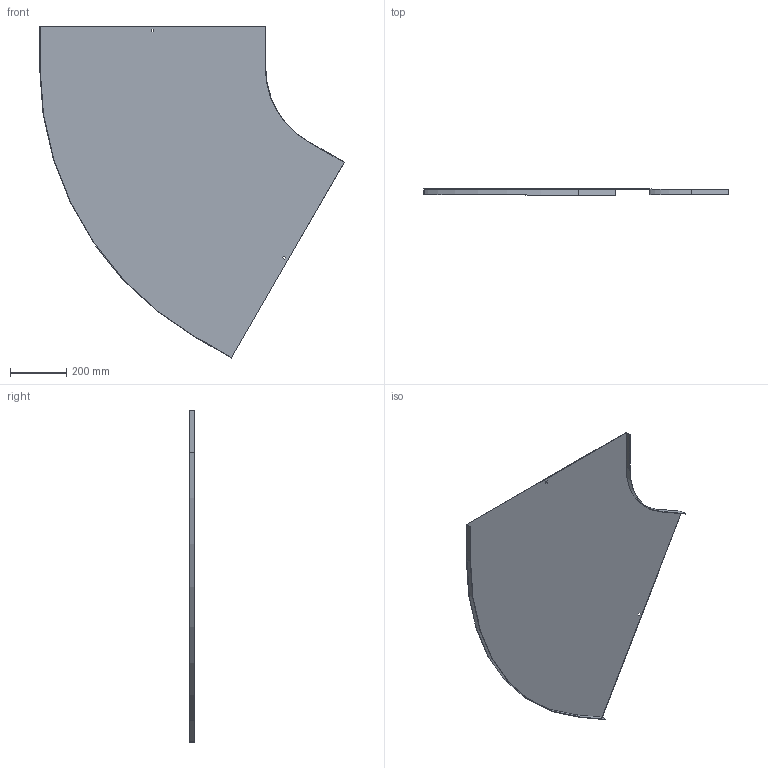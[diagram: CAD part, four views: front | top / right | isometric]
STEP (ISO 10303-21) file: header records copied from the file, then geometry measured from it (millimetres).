
FILE_DESCRIPTION (( 'STEP AP214' ), '1' );
FILE_NAME ('A2_13N3R800.step', '2025-02-21T10:52:27', ( '' ), ( '' ), 'SwSTEP 2.0', 'SolidWorks 2023', '' );
FILE_SCHEMA (( 'AUTOMOTIVE_DESIGN' ));
Length unit declared in the file: millimetre
Products named in the file (1): A2_13N3R800
Bounding box: 1082.15 x 20 x 1178.93 mm (x, y, z)
Volume: 1301452.7 mm3; surface area: 1740982.4 mm2
Topology: 1 solids, 1 shells, 26 faces, 72 edges, 48 vertices
Faces by surface type: plane 22, cylinder 4
Entity records: 855 total; most frequent: CARTESIAN_POINT 147, ORIENTED_EDGE 144, DIRECTION 134, EDGE_CURVE 72, LINE 64, VECTOR 64, VERTEX_POINT 48, AXIS2_PLACEMENT_3D 35
